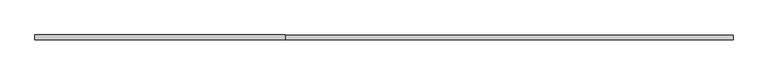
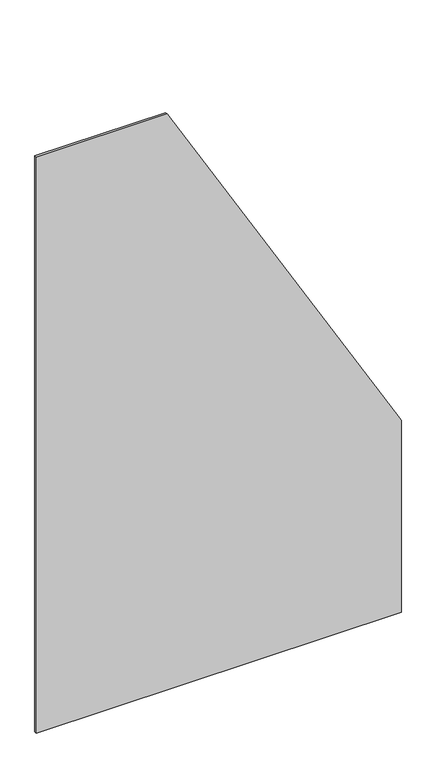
"""IFC4 building model written with IfcOpenShell, lengths in millimetres: plate geometry, 系統嵌板 : 玻璃 1.0cm."""

from ifc_helpers import new_model, si_unit, frame, origin, place, context, project, spatial, polyline, outline, extrude, source, transform, mapped, element, save


def plate_228ab4ba(model_context):
    return source(origin(), model_context, "Body", "SweptSolid", [
        extrude(outline(polyline([(0.0, -750.0), (0.0, 750.0), (832.704407, 750.0), (2500.0, -212.6135594), (2500.0, -750.0), (0.0, -750.0)])), frame((0.0, -5.0, 0.0), z_axis=(0.0, 1.0, 0.0), x_axis=(0.0, 0.0, 1.0)), (0.0, 0.0, 1.0), 10.0),
    ])


if __name__ == "__main__":
    model = new_model("IFC4")
    model_context = context("Model", 3, world=origin())
    ifc_project = project(units=[si_unit("LENGTHUNIT", "METRE", prefix="MILLI")], contexts=[model_context])
    site = spatial("IfcSite", under=ifc_project)
    building = spatial("IfcBuilding", under=site)
    placement = place(None, origin())
    plate_shape = plate_228ab4ba(model_context)
    element("IfcPlate", 1, ObjectType="系統嵌板 : 玻璃 1.0cm", at=placement, inside=building, context=model_context, shape_type="MappedRepresentation", body=[
        mapped(plate_shape, transform((0.0, 0.0, 0.0), x_axis=(1.0, 0.0, 0.0), y_axis=(0.0, 1.0, 0.0), z_axis=(0.0, 0.0, 1.0))),
    ])
    save(model, "model.ifc")
